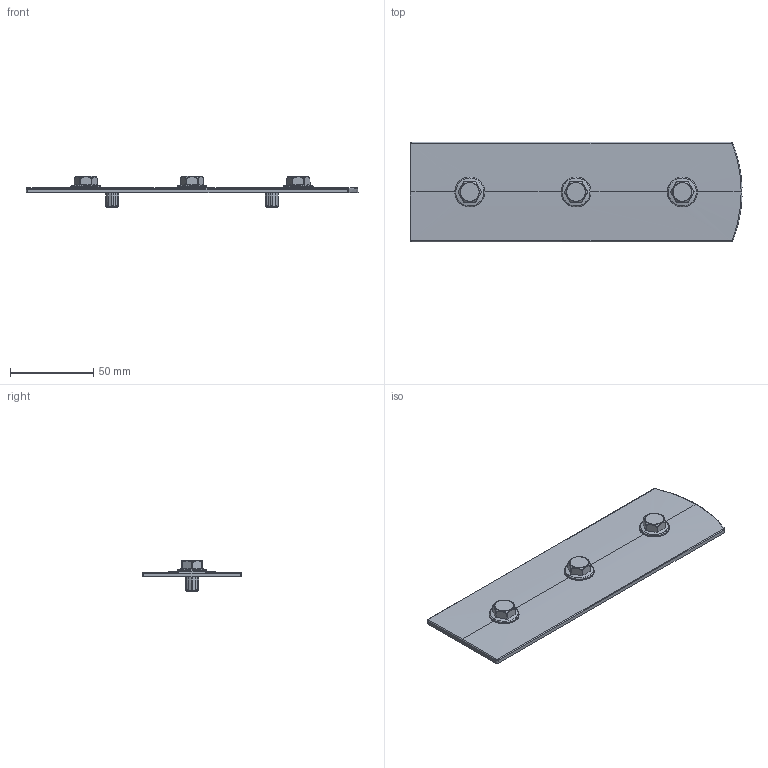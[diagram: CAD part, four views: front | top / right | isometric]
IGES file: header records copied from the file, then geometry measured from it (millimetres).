
Start section: C
Global section: file name: 8322-200 B6X3.igs; native system: By Siemens PLM Incorporated; preprocessor: XPlus GENERIC/IGES 16.0.42; author: Author; organization: Title; date: 20220504.140110; units: millimetre
Bounding box: 199.95 x 60 x 19 mm (x, y, z)
Surface area: 27157.3 mm2 (no closed solid volume)
Topology: 0 solids, 0 shells, 278 faces, 1560 edges, 1524 vertices
Faces by surface type: bspline 278
